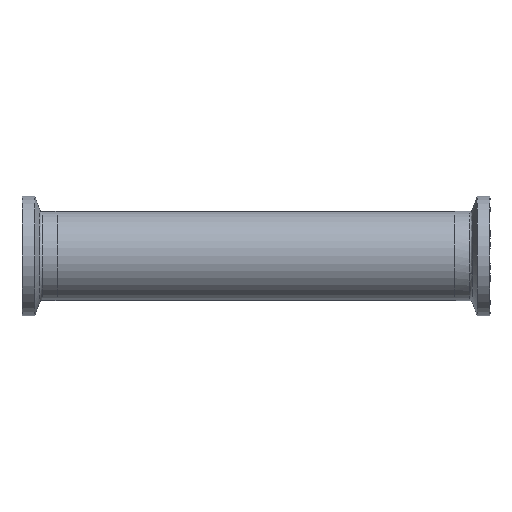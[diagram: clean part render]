
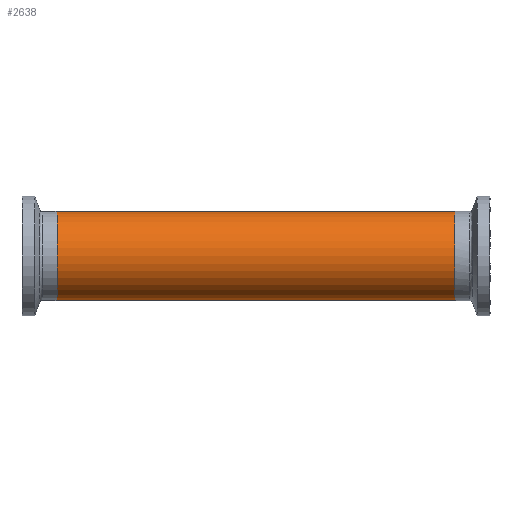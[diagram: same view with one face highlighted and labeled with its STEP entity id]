
A CAD part, front view. The second image highlights one B-rep face of the part: STEP entity #2638.
In plain terms, the highlighted cylindrical face has radius 12.7 mm (diameter 25.4 mm), a partial arc.
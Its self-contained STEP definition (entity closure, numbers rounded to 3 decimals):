
#68 = AXIS2_PLACEMENT_3D ( 'NONE', #125, #552, #325 ) ;
#125 = CARTESIAN_POINT ( 'NONE',  ( 92.621, 0., 0. ) ) ;
#162 = DIRECTION ( 'NONE',  ( -1., 0., 0. ) ) ;
#212 = ORIENTED_EDGE ( 'NONE', *, *, #2326, .T. ) ;
#284 = VECTOR ( 'NONE', #2442, 1000. ) ;
#325 = DIRECTION ( 'NONE',  ( 0., 0., 1. ) ) ;
#326 = VERTEX_POINT ( 'NONE', #1095 ) ;
#414 = CARTESIAN_POINT ( 'NONE',  ( -56.7, 0., -12.7 ) ) ;
#516 = EDGE_LOOP ( 'NONE', ( #1444, #692, #704, #212 ) ) ;
#522 = VERTEX_POINT ( 'NONE', #720 ) ;
#538 = CARTESIAN_POINT ( 'NONE',  ( 56.7, 0., -12.7 ) ) ;
#552 = DIRECTION ( 'NONE',  ( -1., 0., 0. ) ) ;
#692 = ORIENTED_EDGE ( 'NONE', *, *, #844, .T. ) ;
#704 = ORIENTED_EDGE ( 'NONE', *, *, #2623, .T. ) ;
#720 = CARTESIAN_POINT ( 'NONE',  ( 56.7, 0., 12.7 ) ) ;
#774 = DIRECTION ( 'NONE',  ( -1., 0., 0. ) ) ;
#844 = EDGE_CURVE ( 'NONE', #2327, #522, #1747, .T. ) ;
#965 = CARTESIAN_POINT ( 'NONE',  ( -56.7, 0., 0. ) ) ;
#977 = CARTESIAN_POINT ( 'NONE',  ( 92.621, 0., 12.7 ) ) ;
#1095 = CARTESIAN_POINT ( 'NONE',  ( -56.7, 0., 12.7 ) ) ;
#1102 = CIRCLE ( 'NONE', #2090, 12.7 ) ;
#1184 = DIRECTION ( 'NONE',  ( 0., 0., 1. ) ) ;
#1296 = AXIS2_PLACEMENT_3D ( 'NONE', #2040, #774, #2243 ) ;
#1342 = EDGE_CURVE ( 'NONE', #2327, #2080, #1555, .T. ) ;
#1419 = FACE_OUTER_BOUND ( 'NONE', #516, .T. ) ;
#1435 = CARTESIAN_POINT ( 'NONE',  ( 92.621, 0., -12.7 ) ) ;
#1444 = ORIENTED_EDGE ( 'NONE', *, *, #1342, .F. ) ;
#1555 = LINE ( 'NONE', #1435, #2619 ) ;
#1747 = CIRCLE ( 'NONE', #1296, 12.7 ) ;
#1848 = CYLINDRICAL_SURFACE ( 'NONE', #68, 12.7 ) ;
#2040 = CARTESIAN_POINT ( 'NONE',  ( 56.7, 0., 0. ) ) ;
#2058 = LINE ( 'NONE', #977, #284 ) ;
#2080 = VERTEX_POINT ( 'NONE', #414 ) ;
#2090 = AXIS2_PLACEMENT_3D ( 'NONE', #965, #2429, #1184 ) ;
#2243 = DIRECTION ( 'NONE',  ( 0., 0., 1. ) ) ;
#2326 = EDGE_CURVE ( 'NONE', #326, #2080, #1102, .T. ) ;
#2327 = VERTEX_POINT ( 'NONE', #538 ) ;
#2429 = DIRECTION ( 'NONE',  ( 1., 0., 0. ) ) ;
#2442 = DIRECTION ( 'NONE',  ( -1., 0., 0. ) ) ;
#2619 = VECTOR ( 'NONE', #162, 1000. ) ;
#2623 = EDGE_CURVE ( 'NONE', #522, #326, #2058, .T. ) ;
#2638 = ADVANCED_FACE ( 'NONE', ( #1419 ), #1848, .T. ) ;
